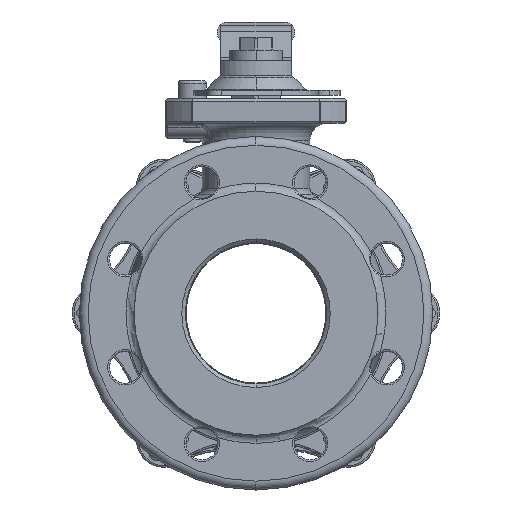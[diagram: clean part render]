
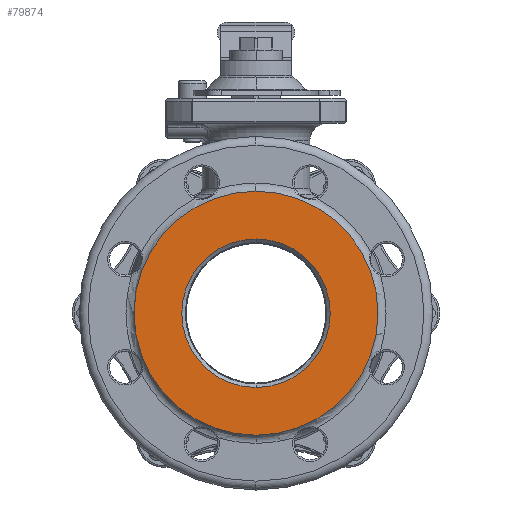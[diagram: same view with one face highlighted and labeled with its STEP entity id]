
A CAD part, left-side view. The second image highlights one B-rep face of the part: STEP entity #79874.
In plain terms, the highlighted planar face has unit normal (-1, 0, 0).
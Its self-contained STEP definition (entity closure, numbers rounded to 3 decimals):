
#14034=CARTESIAN_POINT('',(-65.,0.,0.));
#14035=DIRECTION('',(-1.,0.,0.));
#14036=DIRECTION('',(0.,0.,-1.));
#14037=AXIS2_PLACEMENT_3D('',#14034,#14035,#14036);
#14039=CARTESIAN_POINT('',(-65.,0.,0.));
#14040=DIRECTION('',(-1.,0.,0.));
#14041=DIRECTION('',(0.,0.,1.));
#14042=AXIS2_PLACEMENT_3D('',#14039,#14040,#14041);
#14044=CARTESIAN_POINT('',(-65.,0.,0.));
#14045=DIRECTION('',(-1.,0.,0.));
#14046=DIRECTION('',(0.,0.,1.));
#14047=AXIS2_PLACEMENT_3D('',#14044,#14045,#14046);
#14049=CARTESIAN_POINT('',(-65.,0.,0.));
#14050=DIRECTION('',(1.,0.,0.));
#14051=DIRECTION('',(0.,0.,1.));
#14052=AXIS2_PLACEMENT_3D('',#14049,#14050,#14051);
#47549=CARTESIAN_POINT('',(-65.,0.,42.));
#47550=CARTESIAN_POINT('',(-65.,0.,-42.));
#47551=VERTEX_POINT('',#47549);
#47552=VERTEX_POINT('',#47550);
#49428=CARTESIAN_POINT('',(-65.,0.,-69.));
#49429=CARTESIAN_POINT('',(-65.,0.,69.));
#49430=VERTEX_POINT('',#49428);
#49431=VERTEX_POINT('',#49429);
#79860=CARTESIAN_POINT('',(-65.,0.,0.));
#79861=DIRECTION('',(-1.,0.,0.));
#79862=DIRECTION('',(0.,0.,1.));
#79863=AXIS2_PLACEMENT_3D('',#79860,#79861,#79862);
#79864=PLANE('',#79863);
#79866=ORIENTED_EDGE('',*,*,#79865,.F.);
#79867=ORIENTED_EDGE('',*,*,#79835,.F.);
#79868=EDGE_LOOP('',(#79866,#79867));
#79869=FACE_OUTER_BOUND('',#79868,.F.);
#79870=ORIENTED_EDGE('',*,*,#57974,.T.);
#79871=ORIENTED_EDGE('',*,*,#57959,.F.);
#79872=EDGE_LOOP('',(#79870,#79871));
#79873=FACE_BOUND('',#79872,.F.);
#79874=ADVANCED_FACE('',(#79869,#79873),#79864,.T.);
#14038=CIRCLE('',#14037,69.);
#14043=CIRCLE('',#14042,69.);
#14048=CIRCLE('',#14047,42.);
#14053=CIRCLE('',#14052,42.);
#57959=EDGE_CURVE('',#47551,#47552,#14053,.T.);
#57974=EDGE_CURVE('',#47551,#47552,#14048,.T.);
#79835=EDGE_CURVE('',#49431,#49430,#14043,.T.);
#79865=EDGE_CURVE('',#49430,#49431,#14038,.T.);
